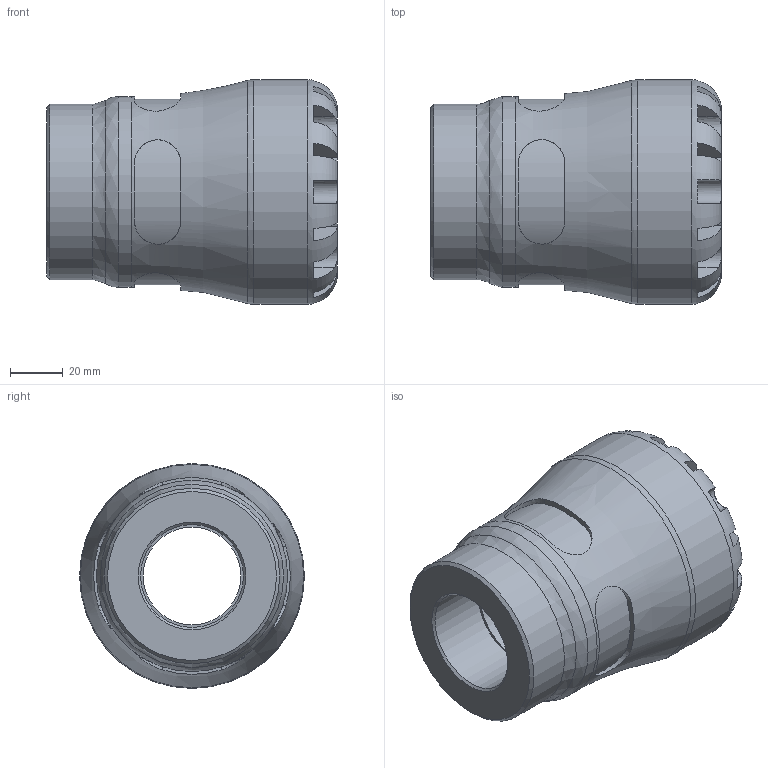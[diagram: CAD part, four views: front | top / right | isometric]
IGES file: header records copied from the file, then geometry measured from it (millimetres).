
Global section: file name: 100300050013_190300050013.ipt; native system: Autodesk Inventor 2015; preprocessor: unknown; author: KIM; date: 20170122.094956; units: millimetre
Bounding box: 110 x 85 x 85 mm (x, y, z)
Volume: 302433.5 mm3; surface area: 51260.3 mm2
Topology: 1 solids, 1 shells, 104 faces, 270 edges, 174 vertices
Faces by surface type: plane 61, revolution 27, cylinder 15, cone 1
Full cylindrical faces by diameter (mm): 66.3 x1, 72.25 x1, 85 x1
